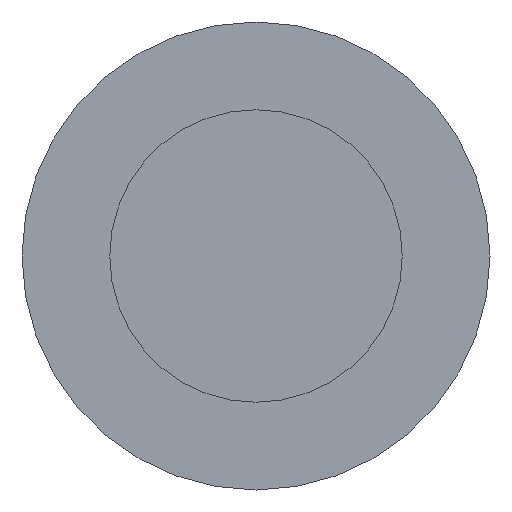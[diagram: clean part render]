
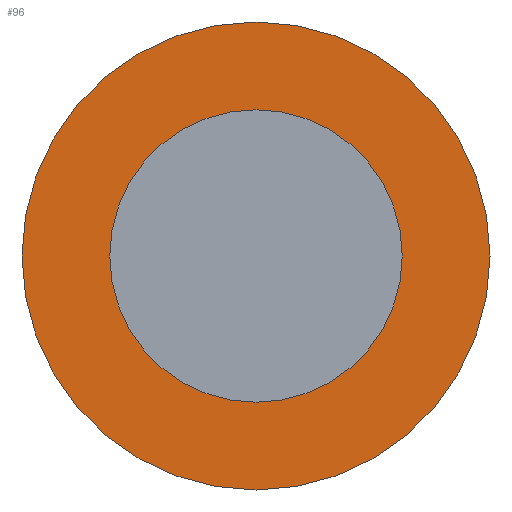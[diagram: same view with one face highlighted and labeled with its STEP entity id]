
A CAD part, front view. The second image highlights one B-rep face of the part: STEP entity #96.
In plain terms, the highlighted planar face has unit normal (0, -1, 0).
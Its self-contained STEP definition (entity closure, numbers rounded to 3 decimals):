
#22=PLANE('',#125);
#30=FACE_OUTER_BOUND('',#39,.T.);
#39=EDGE_LOOP('',(#81));
#52=CIRCLE('',#123,8.);
#58=VERTEX_POINT('',#178);
#66=EDGE_CURVE('',#58,#58,#52,.T.);
#81=ORIENTED_EDGE('',*,*,#66,.F.);
#96=ADVANCED_FACE('',(#30),#22,.F.);
#123=AXIS2_PLACEMENT_3D('',#180,#149,#150);
#125=AXIS2_PLACEMENT_3D('',#182,#153,#154);
#149=DIRECTION('center_axis',(0.,1.,0.));
#150=DIRECTION('ref_axis',(-1.,0.,0.));
#153=DIRECTION('center_axis',(0.,1.,0.));
#154=DIRECTION('ref_axis',(-1.,0.,0.));
#178=CARTESIAN_POINT('',(8.,10.,0.));
#180=CARTESIAN_POINT('Origin',(0.,10.,0.));
#182=CARTESIAN_POINT('Origin',(0.,10.,0.));
